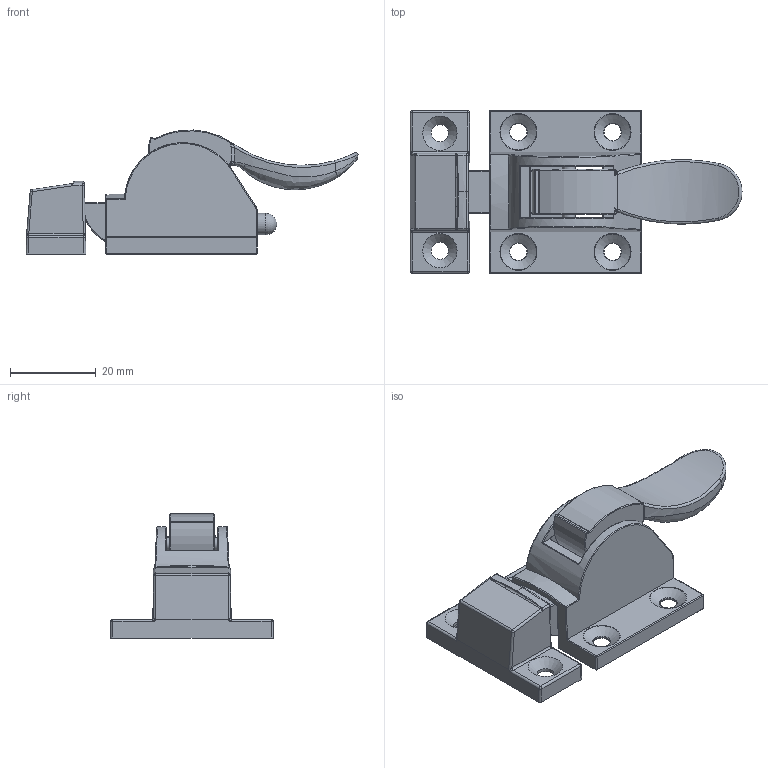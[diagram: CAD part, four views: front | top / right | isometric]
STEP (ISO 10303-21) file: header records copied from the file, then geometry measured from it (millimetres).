
FILE_DESCRIPTION(/* description */ (''),/* implementation_level */ '2;1');
FILE_NAME(/* name */ '\\NAS\db20\D-205-1\DR_D-205-1.stp',/* time_stamp */ '2017-07-26T11:10:58+09:00',/* author */ ('user'),/* organization */ (''),/* preprocessor_version */ 'ST-DEVELOPER v15.6',/* originating_system */ 'Autodesk Inventor 2015',/* authorisation */ '');
FILE_SCHEMA (('AUTOMOTIVE_DESIGN { 1 0 10303 214 3 1 1 }'));
Length unit declared in the file: millimetre
Products named in the file (5): DR_D-205-1-BR; DR_D-205-1-C; DR_D-205-1-H; DR_D-205-1-P; DR_D-205-1
Bounding box: 77.59 x 38 x 28.98 mm (x, y, z)
Volume: 15263.9 mm3; surface area: 12617.7 mm2
Topology: 5 solids, 5 shells, 331 faces, 780 edges, 444 vertices
Faces by surface type: cylinder 124, bspline 63, plane 63, sphere 41, torus 34, cone 6
Full cylindrical faces by diameter (mm): 3 x2, 4 x6, 5 x1
Entity records: 11241 total; most frequent: CARTESIAN_POINT 3996, DIRECTION 1477, ORIENTED_EDGE 1462, EDGE_CURVE 731, AXIS2_PLACEMENT_3D 603, VERTEX_POINT 436, EDGE_LOOP 375, FACE_OUTER_BOUND 331
